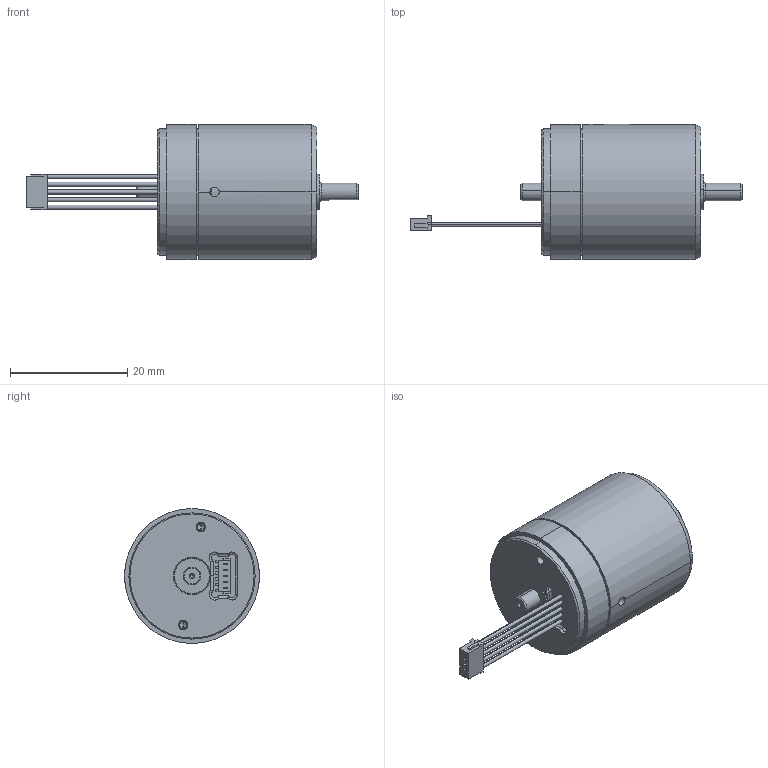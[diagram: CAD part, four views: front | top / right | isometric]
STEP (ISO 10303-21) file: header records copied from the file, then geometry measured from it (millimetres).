
FILE_DESCRIPTION (( 'STEP AP214' ), '1' );
FILE_NAME ('LR23-050D2AE0B10-Motor-PiezoMotor.STEP', '2019-09-30T19:29:51', ( '' ), ( '' ), 'SwSTEP 2.0', 'SolidWorks 2017', '' );
FILE_SCHEMA (( 'AUTOMOTIVE_DESIGN' ));
Length unit declared in the file: millimetre
Products named in the file (3): LR23-050D2AB10-MotorShaft-PiezoMotor; LR23-050D2AE0B10-Motor-PiezoMotor; LR23-050D2AB10-MotorPart-PiezoMotor
Assembly tree (2 placements, depth 2):
  LR23-050D2AE0B10-Motor-PiezoMotor
    LR23-050D2AB10-MotorPart-PiezoMotor
    LR23-050D2AB10-MotorShaft-PiezoMotor
Bounding box: 56.56 x 23 x 23 mm (x, y, z)
Volume: 7546.6 mm3; surface area: 8001.1 mm2
Topology: 11 solids, 11 shells, 379 faces, 916 edges, 567 vertices
Faces by surface type: plane 146, cylinder 130, cone 71, torus 28, bspline 4
Entity records: 11772 total; most frequent: CARTESIAN_POINT 2543, DIRECTION 1977, ORIENTED_EDGE 1800, EDGE_CURVE 900, AXIS2_PLACEMENT_3D 735, VERTEX_POINT 567, LINE 507, VECTOR 507
